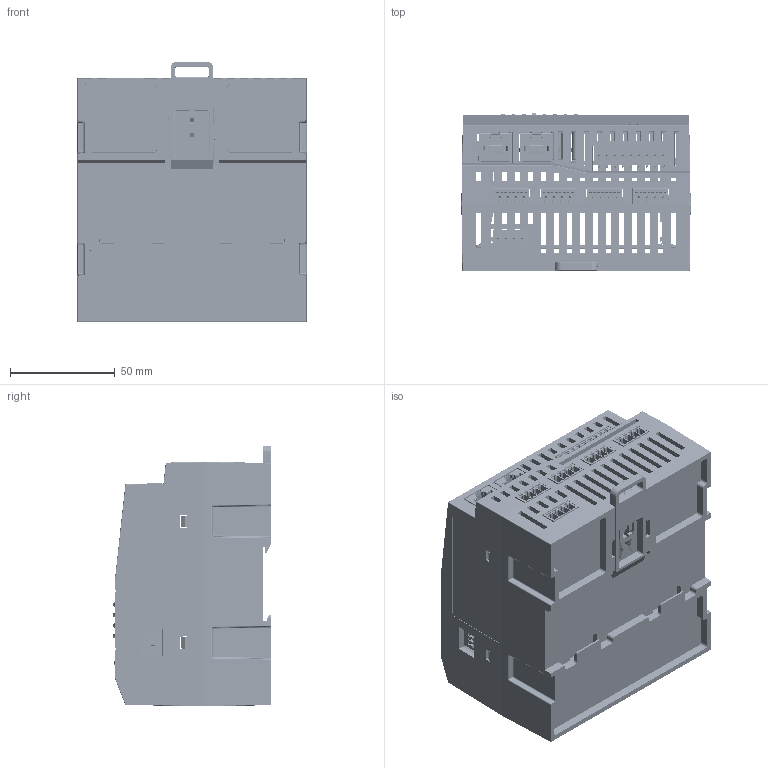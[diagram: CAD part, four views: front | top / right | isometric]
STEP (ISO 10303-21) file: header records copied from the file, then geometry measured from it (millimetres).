
FILE_DESCRIPTION (( 'STEP AP214' ), '1' );
FILE_NAME ('PLX51-HART-8I.STEP', '2025-09-16T20:57:49', ( '' ), ( '' ), 'SwSTEP 2.0', 'SolidWorks 2024', '' );
FILE_SCHEMA (( 'AUTOMOTIVE_DESIGN' ));
Length unit declared in the file: millimetre
Products named in the file (286): CPU_Group_11-1; CPU_Group_46-1; HRT_Group_38-1; CPU_Group_15-1; CPU_Group_44_BOTTOM-1; HRT_Group_20_BOTTOM-1; CPU_Group_27_TOP_1-1; HRT_Group_12-1; CPU_Group_19-1; CPU_Group_31_TOP-1; PWR_Group_2-1; CPU_Group_45_TOP-1; HRT_Group_7-1; CPU_Group_36-1; CPU_Group_8-1; CPU_Group_27-1; HRT_Group_21-1; PWR_Group_1_SILKSCREEN_TOP; CPU_Group_34_BOTTOM-1; CPU_Group_27_TOP-1; OI-SAMTEC_HW04SDSM; HRT_Group_15_TOP-1; HRT_Group_9-1; PWR_Group_13_TOP-1; CPU_Group_6-1; CPU_Group_40_TOP-1; CPU_Group_37-1; CPU_Group_46_TOP-1; HRT_Group_21_TOP-1; PWR_Group_10-1; HRT_Group_39-1; CPU_Group_23_BOTTOM-1; HRT_Group_25_TOP-1; HRT_Group_16_BOTTOM-1; HRT_Group_4-1; CPU_Group_33-1; CPU_Group_51_BOTTOM-1; HRT_Group_34_TOP-1; HRT_Group_13_BOTTOM-1; CPU_Group_20_BOTTOM-1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
Assembly tree (320 placements, depth 5):
  PLX51-HART-8I
    Enclosure_HART 8
    PCF Clip R0.1
    PCFP_R1_1
      PWR_Merged Shapes-1
        PWR_Group_1
          PWR_Group_1_SILKSCREEN_TOP
          PWR_Group_13_Dielectric-1
        PWR_Group_10-1
          PWR_Group_10_TOP-1
        PWR_Group_11-1
          PWR_Group_11_TOP-1
          PWR_Group_11_BOTTOM-1
        PWR_Group_12-1
          PWR_Group_12_TOP-1
          PWR_Group_12_BOTTOM-1
        PWR_Group_13-1
          PWR_Group_13_TOP-1
          PWR_Group_13_BOTTOM-1
        PWR_Group_2-1
          PWR_Group_2_SILKSCREEN_TOP-1
        PWR_Group_3-1
          PWR_Group_3_SILKSCREEN_TOP-1
        PWR_Group_4-1
          PWR_Group_4_TOP-1
        PWR_Group_5-1
          PWR_Group_5_TOP-1
        PWR_Group_6-1
          PWR_Group_6_TOP-1
        PWR_Group_7-1
          PWR_Group_7_TOP-1
        PWR_Group_8-1
          PWR_Group_8_TOP-1
        PWR_Group_9-1
          PWR_Group_9_TOP-1
          PWR_Group_13_BOTTOM_1-1
      OI-SAMTEC_HW04SDSM  x2
      CONPHOENIX381MM4RANS
    PCFM_R1_1
      CPU_Merged Shapes-1
        CPU_Group_1-1
          CPU_Group_31_TOP-1
          CPU_Group_1_BOTTOM-1
        CPU_Group_10-1
          CPU_Group_10_BOTTOM-1
        CPU_Group_11-1
          CPU_Group_11_BOTTOM-1
        CPU_Group_12-1
          CPU_Group_12_BOTTOM-1
        CPU_Group_13-1
          CPU_Group_13_BOTTOM-1
        CPU_Group_14-1
          CPU_Group_14_BOTTOM-1
        CPU_Group_15-1
          CPU_Group_15_BOTTOM-1
        CPU_Group_16-1
          CPU_Group_16_BOTTOM-1
        CPU_Group_17-1
          CPU_Group_17_BOTTOM-1
        CPU_Group_18-1
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Bounding box: 109.66 x 75.44 x 124.67 mm (x, y, z)
Volume: 199564.2 mm3; surface area: 217323.8 mm2
Topology: 293 solids, 293 shells, 16296 faces, 42621 edges, 27630 vertices
Faces by surface type: plane 10933, cylinder 2909, bspline 1883, sphere 235, torus 186, cone 150
Entity records: 497992 total; most frequent: CARTESIAN_POINT 154545, ORIENTED_EDGE 58592, DIRECTION 47962, EDGE_CURVE 29296, VECTOR 20976, LINE 20976, VERTEX_POINT 19198, AXIS2_PLACEMENT_3D 13493
